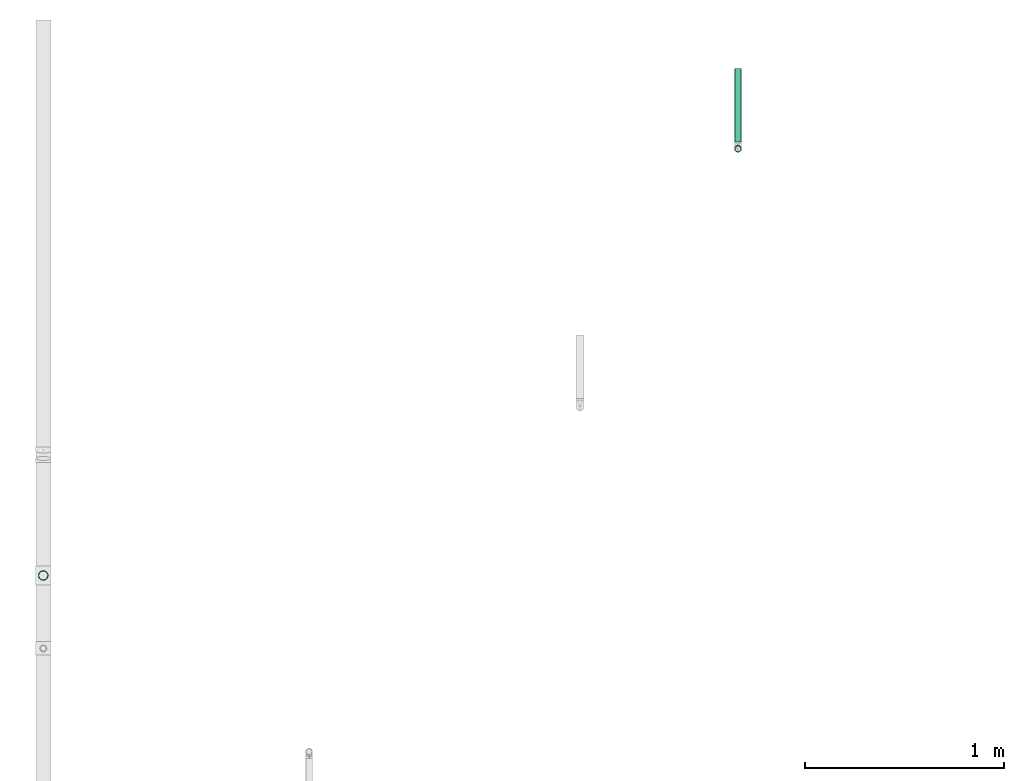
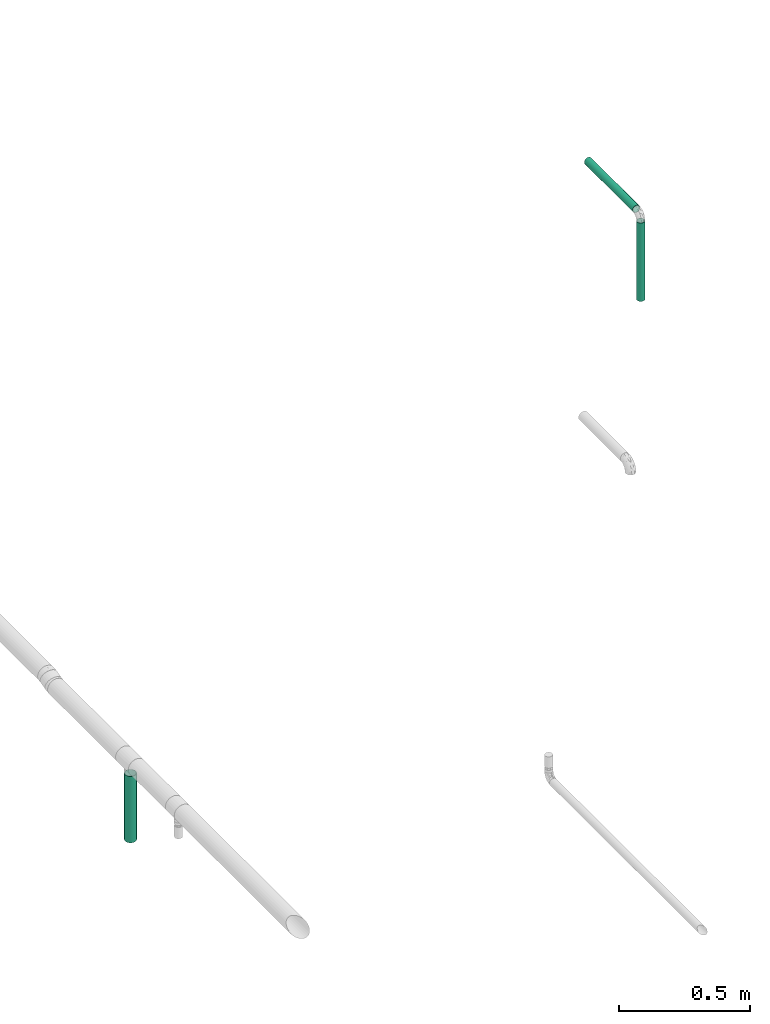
# One storey, part 28 of 32: 3 flow segments.
"""IFC2X3 building model written with IfcOpenShell, lengths in millimetres."""

from ifc_helpers import new_model, entity, si_unit, converted_unit, derived_unit, direction, frame, place, context, subcontext, project, spatial, faceted_brep, type_object, element, save


model = new_model("IFC2X3")

# Units and contexts
model_context = context("Model", 3, precision=0.01, world=frame((0.0, 4.29681676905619e-09, 0.0)), true_north=direction((4.01073788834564e-13, 1.0)))
plan_context = context("Plan", 3, precision=0.01, world=frame((0.0, 4.29681676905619e-09, 0.0)), true_north=direction((4.01073788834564e-13, 1.0)))
body_context = subcontext(model_context, "Body", "Model", "MODEL_VIEW")
ifc_project = project(units=[converted_unit("PLANEANGLEUNIT", "DEGREE", entity("IfcPositiveLengthMeasure", 0.0174532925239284), si_unit("PLANEANGLEUNIT", "RADIAN"), dimensions=[0, 0, 0, 0, 0, 0, 0]), si_unit("AREAUNIT", "SQUARE_METRE"), si_unit("LENGTHUNIT", "METRE", prefix="MILLI"), si_unit("MASSUNIT", "GRAM", prefix="KILO"), si_unit("POWERUNIT", "WATT"), si_unit("PRESSUREUNIT", "PASCAL", prefix="KILO"), si_unit("FORCEUNIT", "NEWTON", prefix="KILO"), si_unit("ELECTRICVOLTAGEUNIT", "VOLT"), si_unit("ELECTRICCURRENTUNIT", "AMPERE"), si_unit("THERMODYNAMICTEMPERATUREUNIT", "DEGREE_CELSIUS"), si_unit("TIMEUNIT", "SECOND"), si_unit("VOLUMEUNIT", "CUBIC_METRE"), derived_unit("LINEARVELOCITYUNIT", [(si_unit("LENGTHUNIT", "METRE"), 1), (si_unit("TIMEUNIT", "SECOND"), -1)]), derived_unit("VOLUMETRICFLOWRATEUNIT", [(si_unit("VOLUMEUNIT", "CUBIC_METRE"), 1), (si_unit("TIMEUNIT", "SECOND"), -1)]), derived_unit("THERMALTRANSMITTANCEUNIT", [(si_unit("POWERUNIT", "WATT"), 1), (si_unit("THERMODYNAMICTEMPERATUREUNIT", "KELVIN"), -1), (si_unit("AREAUNIT", "SQUARE_METRE"), -1)]), derived_unit("SOUNDPRESSUREUNIT", [(si_unit("PRESSUREUNIT", "PASCAL"), 1)])], contexts=[model_context, plan_context])

# Site, building, storey
site_placement = place(None, frame((0.0, -4.29681676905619e-09, 0.0), z_axis=(0.0, 0.0, 1.0), x_axis=(1.0, 0.0, 0.0)))
site = spatial("IfcSite", under=ifc_project, at=site_placement, CompositionType="ELEMENT")
building_placement = place(site_placement, frame((0.0, 4.29681676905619e-09, 0.0), z_axis=(0.0, 0.0, 1.0), x_axis=(1.0, 0.0, 0.0)))
building = spatial("IfcBuilding", under=site, at=building_placement, Name="mc-building", CompositionType="ELEMENT")
storey_placement = place(building_placement, frame((0.0, 0.0, 205200.0), z_axis=(0.0, 0.0, 1.0), x_axis=(1.0, 0.0, 0.0)))
storey = spatial("IfcBuildingStorey", under=building, at=storey_placement, Name="Nivå D + 1,2 m", CompositionType="ELEMENT", Elevation=205200.0)

# Flow segments
pipe_segment_type = type_object("IfcPipeSegmentType", Name="Stålrør normaltykke", PredefinedType="RIGIDSEGMENT")
flow_segment_1_placement = place(storey_placement, frame((326993.46135, 467096.53781, 4366.20000000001), z_axis=(0.0, 1.0, 0.0), x_axis=(0.0, 0.0, -1.0)))
element("IfcFlowSegment", 1, at=flow_segment_1_placement, inside=storey, type_object=pipe_segment_type, Name="Stålrør normaltykke", context=body_context, shape_type="Brep", body=[
    faceted_brep([(366.200000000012, 14.9, 0.0), (366.200000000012, 14.6736355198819, -2.58735784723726), (0.0, 14.6736355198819, -2.58735784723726), (0.0, 14.9, 0.0), (366.200000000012, 14.00142004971, -5.09610013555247), (0.0, 14.00142004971, -5.09610013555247), (366.200000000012, 12.9037785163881, -7.45000000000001), (0.0, 12.9037785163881, -7.45000000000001), (366.200000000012, 11.4140622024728, -9.57753538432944), (0.0, 11.4140622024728, -9.57753538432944), (366.200000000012, 9.57753538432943, -11.4140622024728), (0.0, 9.57753538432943, -11.4140622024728), (366.200000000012, 7.45, -12.9037785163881), (0.0, 7.45, -12.9037785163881), (366.200000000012, 5.09610013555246, -14.00142004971), (0.0, 5.09610013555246, -14.00142004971), (366.200000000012, 2.58735784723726, -14.6736355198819), (0.0, 2.58735784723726, -14.6736355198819), (366.200000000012, -2.73708559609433e-15, -14.9), (0.0, -2.73708559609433e-15, -14.9), (366.200000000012, -2.58735784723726, -14.6736355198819), (0.0, -2.58735784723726, -14.6736355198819), (366.200000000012, -5.09610013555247, -14.00142004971), (0.0, -5.09610013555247, -14.00142004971), (366.200000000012, -7.45000000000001, -12.9037785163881), (0.0, -7.45000000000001, -12.9037785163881), (366.200000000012, -9.57753538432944, -11.4140622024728), (0.0, -9.57753538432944, -11.4140622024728), (366.200000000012, -11.4140622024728, -9.57753538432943), (0.0, -11.4140622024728, -9.57753538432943), (366.200000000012, -12.9037785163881, -7.44999999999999), (0.0, -12.9037785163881, -7.44999999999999), (366.200000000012, -14.00142004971, -5.09610013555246), (0.0, -14.00142004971, -5.09610013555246), (366.200000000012, -14.6736355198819, -2.58735784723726), (0.0, -14.6736355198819, -2.58735784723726), (366.200000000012, -14.9, 1.82472373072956e-15), (0.0, -14.9, 1.82472373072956e-15), (366.200000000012, -14.6736355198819, 2.58735784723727), (0.0, -14.6736355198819, 2.58735784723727), (366.200000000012, -14.00142004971, 5.09610013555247), (0.0, -14.00142004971, 5.09610013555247), (366.200000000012, -12.9037785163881, 7.45), (0.0, -12.9037785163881, 7.45), (366.200000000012, -11.4140622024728, 9.57753538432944), (0.0, -11.4140622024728, 9.57753538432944), (366.200000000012, -9.57753538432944, 11.4140622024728), (0.0, -9.57753538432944, 11.4140622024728), (366.200000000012, -7.45, 12.9037785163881), (0.0, -7.45, 12.9037785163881), (366.200000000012, -5.09610013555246, 14.00142004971), (0.0, -5.09610013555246, 14.00142004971), (366.200000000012, -2.58735784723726, 14.6736355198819), (0.0, -2.58735784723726, 14.6736355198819), (366.200000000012, 9.12361865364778e-16, 14.9), (0.0, 9.12361865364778e-16, 14.9), (366.200000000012, 2.58735784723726, 14.6736355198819), (0.0, 2.58735784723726, 14.6736355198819), (366.200000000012, 5.09610013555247, 14.00142004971), (0.0, 5.09610013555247, 14.00142004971), (366.200000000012, 7.45, 12.9037785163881), (0.0, 7.45, 12.9037785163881), (366.200000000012, 9.57753538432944, 11.4140622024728), (0.0, 9.57753538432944, 11.4140622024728), (366.200000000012, 11.4140622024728, 9.57753538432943), (0.0, 11.4140622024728, 9.57753538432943), (366.200000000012, 12.9037785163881, 7.45), (0.0, 12.9037785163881, 7.45), (366.200000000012, 14.00142004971, 5.09610013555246), (0.0, 14.00142004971, 5.09610013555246), (366.200000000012, 14.6736355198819, 2.58735784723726), (0.0, 14.6736355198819, 2.58735784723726), (366.200000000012, 16.6432510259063, -2.93465420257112), (366.200000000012, 16.9, 0.0), (0.0, 16.9, 0.0), (0.0, 16.6432510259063, -2.93465420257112), (366.200000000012, 16.6432510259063, 2.93465420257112), (0.0, 16.6432510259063, 2.93465420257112), (366.200000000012, 15.8808052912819, 5.7801404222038), (0.0, 15.8808052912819, 5.7801404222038), (366.200000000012, 14.635829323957, 8.45), (0.0, 14.635829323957, 8.45), (366.200000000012, 12.9461510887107, 10.8631106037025), (0.0, 12.9461510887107, 10.8631106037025), (366.200000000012, 10.8631106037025, 12.9461510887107), (0.0, 10.8631106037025, 12.9461510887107), (366.200000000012, 8.45, 14.635829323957), (0.0, 8.45, 14.635829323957), (366.200000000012, 5.7801404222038, 15.8808052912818), (0.0, 5.7801404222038, 15.8808052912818), (366.200000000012, 2.93465420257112, 16.6432510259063), (0.0, 2.93465420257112, 16.6432510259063), (366.200000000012, 1.03482654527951e-15, 16.9), (0.0, 1.03482654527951e-15, 16.9), (366.200000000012, -2.93465420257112, 16.6432510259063), (0.0, -2.93465420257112, 16.6432510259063), (366.200000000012, -5.7801404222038, 15.8808052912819), (0.0, -5.7801404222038, 15.8808052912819), (366.200000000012, -8.45, 14.635829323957), (0.0, -8.45, 14.635829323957), (366.200000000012, -10.8631106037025, 12.9461510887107), (0.0, -10.8631106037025, 12.9461510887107), (366.200000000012, -12.9461510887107, 10.8631106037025), (0.0, -12.9461510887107, 10.8631106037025), (366.200000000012, -14.635829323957, 8.45), (0.0, -14.635829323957, 8.45), (366.200000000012, -15.8808052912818, 5.7801404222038), (0.0, -15.8808052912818, 5.7801404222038), (366.200000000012, -16.6432510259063, 2.93465420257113), (0.0, -16.6432510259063, 2.93465420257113), (366.200000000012, -16.9, 2.06965309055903e-15), (0.0, -16.9, 2.06965309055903e-15), (366.200000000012, -16.6432510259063, -2.93465420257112), (0.0, -16.6432510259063, -2.93465420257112), (366.200000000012, -15.8808052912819, -5.7801404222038), (0.0, -15.8808052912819, -5.7801404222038), (366.200000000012, -14.635829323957, -8.44999999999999), (0.0, -14.635829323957, -8.44999999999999), (366.200000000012, -12.9461510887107, -10.8631106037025), (0.0, -12.9461510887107, -10.8631106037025), (366.200000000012, -10.8631106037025, -12.9461510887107), (0.0, -10.8631106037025, -12.9461510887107), (366.200000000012, -8.45000000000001, -14.635829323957), (0.0, -8.45000000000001, -14.635829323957), (366.200000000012, -5.78014042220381, -15.8808052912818), (0.0, -5.78014042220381, -15.8808052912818), (366.200000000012, -2.93465420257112, -16.6432510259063), (0.0, -2.93465420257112, -16.6432510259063), (366.200000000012, -3.10447963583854e-15, -16.9), (0.0, -3.10447963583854e-15, -16.9), (366.200000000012, 2.93465420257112, -16.6432510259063), (0.0, 2.93465420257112, -16.6432510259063), (366.200000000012, 5.78014042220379, -15.8808052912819), (0.0, 5.78014042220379, -15.8808052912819), (366.200000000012, 8.45, -14.635829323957), (0.0, 8.45, -14.635829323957), (366.200000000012, 10.8631106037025, -12.9461510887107), (0.0, 10.8631106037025, -12.9461510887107), (366.200000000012, 12.9461510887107, -10.8631106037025), (0.0, 12.9461510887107, -10.8631106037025), (366.200000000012, 14.635829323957, -8.45000000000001), (0.0, 14.635829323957, -8.45000000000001), (366.200000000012, 15.8808052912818, -5.78014042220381), (0.0, 15.8808052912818, -5.78014042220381)], [[[0, 1, 2, 3]], [[1, 4, 5, 2]], [[4, 6, 7, 5]], [[6, 8, 9, 7]], [[8, 10, 11, 9]], [[10, 12, 13, 11]], [[12, 14, 15, 13]], [[14, 16, 17, 15]], [[16, 18, 19, 17]], [[18, 20, 21, 19]], [[20, 22, 23, 21]], [[22, 24, 25, 23]], [[24, 26, 27, 25]], [[26, 28, 29, 27]], [[28, 30, 31, 29]], [[30, 32, 33, 31]], [[32, 34, 35, 33]], [[34, 36, 37, 35]], [[36, 38, 39, 37]], [[38, 40, 41, 39]], [[40, 42, 43, 41]], [[42, 44, 45, 43]], [[44, 46, 47, 45]], [[46, 48, 49, 47]], [[48, 50, 51, 49]], [[50, 52, 53, 51]], [[52, 54, 55, 53]], [[54, 56, 57, 55]], [[56, 58, 59, 57]], [[58, 60, 61, 59]], [[60, 62, 63, 61]], [[62, 64, 65, 63]], [[64, 66, 67, 65]], [[66, 68, 69, 67]], [[68, 70, 71, 69]], [[70, 0, 3, 71]], [[72, 73, 74, 75]], [[73, 76, 77, 74]], [[76, 78, 79, 77]], [[78, 80, 81, 79]], [[80, 82, 83, 81]], [[82, 84, 85, 83]], [[84, 86, 87, 85]], [[86, 88, 89, 87]], [[88, 90, 91, 89]], [[90, 92, 93, 91]], [[92, 94, 95, 93]], [[94, 96, 97, 95]], [[96, 98, 99, 97]], [[98, 100, 101, 99]], [[100, 102, 103, 101]], [[102, 104, 105, 103]], [[104, 106, 107, 105]], [[106, 108, 109, 107]], [[108, 110, 111, 109]], [[110, 112, 113, 111]], [[112, 114, 115, 113]], [[114, 116, 117, 115]], [[116, 118, 119, 117]], [[118, 120, 121, 119]], [[120, 122, 123, 121]], [[122, 124, 125, 123]], [[124, 126, 127, 125]], [[126, 128, 129, 127]], [[128, 130, 131, 129]], [[130, 132, 133, 131]], [[132, 134, 135, 133]], [[134, 136, 137, 135]], [[136, 138, 139, 137]], [[138, 140, 141, 139]], [[140, 142, 143, 141]], [[142, 72, 75, 143]], [[75, 74, 77, 79, 81, 83, 85, 87, 89, 91, 93, 95, 97, 99, 101, 103, 105, 107, 109, 111, 113, 115, 117, 119, 121, 123, 125, 127, 129, 131, 133, 135, 137, 139, 141, 143], [3, 2, 5, 7, 9, 11, 13, 15, 17, 19, 21, 23, 25, 27, 29, 31, 33, 35, 37, 39, 41, 43, 45, 47, 49, 51, 53, 55, 57, 59, 61, 63, 65, 67, 69, 71]], [[142, 140, 138, 136, 134, 132, 130, 128, 126, 124, 122, 120, 118, 116, 114, 112, 110, 108, 106, 104, 102, 100, 98, 96, 94, 92, 90, 88, 86, 84, 82, 80, 78, 76, 73, 72], [70, 68, 66, 64, 62, 60, 58, 56, 54, 52, 50, 48, 46, 44, 42, 40, 38, 36, 34, 32, 30, 28, 26, 24, 22, 20, 18, 16, 14, 12, 10, 8, 6, 4, 1, 0]]], orient=[[False], [False], [False], [False], [False], [False], [False], [False], [False], [False], [False], [False], [False], [False], [False], [False], [False], [False], [False], [False], [False], [False], [False], [False], [False], [False], [False], [False], [False], [False], [False], [False], [False], [False], [False], [False], [False], [False], [False], [False], [False], [False], [False], [False], [False], [False], [False], [False], [False], [False], [False], [False], [False], [False], [False], [False], [False], [False], [False], [False], [False], [False], [False], [False], [False], [False], [False], [False], [False], [False], [False], [False], [False, False], [False, False]]),
])
flow_segment_2_placement = place(storey_placement, frame((323497.5, 464949.29062, 3281.73092999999), z_axis=(1.0, 0.0, 0.0), x_axis=(0.0, 0.0, 1.0)))
element("IfcFlowSegment", 2, at=flow_segment_2_placement, inside=storey, type_object=pipe_segment_type, Name="Stålrør normaltykke", context=body_context, shape_type="Brep", body=[
    faceted_brep([(718.269070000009, 21.7642513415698, -3.83762472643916), (718.269070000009, 22.1, 0.0), (1028.6, 22.1, 0.0), (1028.6, 21.7642513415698, -3.83762472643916), (718.269070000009, 20.7672069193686, -7.55864516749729), (1028.6, 20.7672069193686, -7.5586451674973), (718.269070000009, 19.1391614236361, -11.05), (1028.6, 19.1391614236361, -11.05), (718.269070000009, 16.9295821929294, -14.2056061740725), (1028.6, 16.9295821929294, -14.2056061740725), (718.269070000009, 14.2056061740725, -16.9295821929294), (1028.6, 14.2056061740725, -16.9295821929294), (718.269070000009, 11.05, -19.1391614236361), (1028.6, 11.05, -19.1391614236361), (718.269070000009, 7.55864516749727, -20.7672069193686), (1028.6, 7.55864516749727, -20.7672069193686), (718.269070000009, 3.83762472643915, -21.7642513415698), (1028.6, 3.83762472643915, -21.7642513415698), (718.269070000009, -4.05970413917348e-15, -22.1), (1028.6, -4.05970413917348e-15, -22.1), (718.269070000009, -3.83762472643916, -21.7642513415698), (1028.6, -3.83762472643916, -21.7642513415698), (718.269070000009, -7.55864516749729, -20.7672069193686), (1028.6, -7.55864516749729, -20.7672069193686), (718.269070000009, -11.05, -19.1391614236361), (1028.6, -11.05, -19.1391614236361), (718.269070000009, -14.2056061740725, -16.9295821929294), (1028.6, -14.2056061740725, -16.9295821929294), (718.269070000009, -16.9295821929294, -14.2056061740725), (1028.6, -16.9295821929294, -14.2056061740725), (718.269070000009, -19.1391614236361, -11.05), (1028.6, -19.1391614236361, -11.05), (718.269070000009, -20.7672069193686, -7.55864516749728), (1028.6, -20.7672069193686, -7.55864516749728), (718.269070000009, -21.7642513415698, -3.83762472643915), (1028.6, -21.7642513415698, -3.83762472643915), (718.269070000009, -22.1, 2.70646942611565e-15), (1028.6, -22.1, 2.70646942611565e-15), (718.269070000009, -21.7642513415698, 3.83762472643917), (1028.6, -21.7642513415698, 3.83762472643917), (718.269070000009, -20.7672069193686, 7.55864516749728), (1028.6, -20.7672069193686, 7.55864516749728), (718.269070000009, -19.1391614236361, 11.05), (1028.6, -19.1391614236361, 11.05), (718.269070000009, -16.9295821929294, 14.2056061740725), (1028.6, -16.9295821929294, 14.2056061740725), (718.269070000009, -14.2056061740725, 16.9295821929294), (1028.6, -14.2056061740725, 16.9295821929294), (718.269070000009, -11.05, 19.1391614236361), (1028.6, -11.05, 19.1391614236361), (718.269070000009, -7.55864516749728, 20.7672069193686), (1028.6, -7.55864516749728, 20.7672069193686), (718.269070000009, -3.83762472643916, 21.7642513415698), (1028.6, -3.83762472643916, 21.7642513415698), (718.269070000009, 1.35323471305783e-15, 22.1), (1028.6, 1.35323471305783e-15, 22.1), (718.269070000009, 3.83762472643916, 21.7642513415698), (1028.6, 3.83762472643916, 21.7642513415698), (718.269070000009, 7.55864516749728, 20.7672069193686), (1028.6, 7.55864516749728, 20.7672069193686), (718.269070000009, 11.05, 19.1391614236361), (1028.6, 11.05, 19.1391614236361), (718.269070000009, 14.2056061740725, 16.9295821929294), (1028.6, 14.2056061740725, 16.9295821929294), (718.269070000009, 16.9295821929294, 14.2056061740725), (1028.6, 16.9295821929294, 14.2056061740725), (718.269070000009, 19.1391614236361, 11.05), (1028.6, 19.1391614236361, 11.05), (718.269070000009, 20.7672069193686, 7.55864516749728), (1028.6, 20.7672069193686, 7.55864516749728), (718.269070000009, 21.7642513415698, 3.83762472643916), (1028.6, 21.7642513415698, 3.83762472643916), (718.269070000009, 24.1, 0.0), (718.269070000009, 23.7338668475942, -4.18492108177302), (1028.6, 23.7338668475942, -4.18492108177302), (1028.6, 24.1, 0.0), (718.269070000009, 23.7338668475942, 4.18492108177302), (1028.6, 23.7338668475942, 4.18492108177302), (718.269070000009, 22.6465921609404, 8.24268545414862), (1028.6, 22.6465921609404, 8.24268545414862), (718.269070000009, 20.871212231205, 12.05), (1028.6, 20.871212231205, 12.05), (718.269070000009, 18.4616710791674, 15.4911813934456), (1028.6, 18.4616710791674, 15.4911813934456), (718.269070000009, 15.4911813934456, 18.4616710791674), (1028.6, 15.4911813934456, 18.4616710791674), (718.269070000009, 12.05, 20.871212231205), (1028.6, 12.05, 20.871212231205), (718.269070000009, 8.24268545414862, 22.6465921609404), (1028.6, 8.24268545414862, 22.6465921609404), (718.269070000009, 4.18492108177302, 23.7338668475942), (1028.6, 4.18492108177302, 23.7338668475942), (718.269070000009, 1.47569939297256e-15, 24.1), (1028.6, 1.47569939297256e-15, 24.1), (718.269070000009, -4.18492108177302, 23.7338668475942), (1028.6, -4.18492108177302, 23.7338668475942), (718.269070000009, -8.24268545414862, 22.6465921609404), (1028.6, -8.24268545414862, 22.6465921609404), (718.269070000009, -12.05, 20.871212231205), (1028.6, -12.05, 20.871212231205), (718.269070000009, -15.4911813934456, 18.4616710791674), (1028.6, -15.4911813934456, 18.4616710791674), (718.269070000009, -18.4616710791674, 15.4911813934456), (1028.6, -18.4616710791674, 15.4911813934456), (718.269070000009, -20.871212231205, 12.05), (1028.6, -20.871212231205, 12.05), (718.269070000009, -22.6465921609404, 8.24268545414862), (1028.6, -22.6465921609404, 8.24268545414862), (718.269070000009, -23.7338668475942, 4.18492108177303), (1028.6, -23.7338668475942, 4.18492108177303), (718.269070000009, -24.1, 2.95139878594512e-15), (1028.6, -24.1, 2.95139878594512e-15), (718.269070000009, -23.7338668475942, -4.18492108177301), (1028.6, -23.7338668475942, -4.18492108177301), (718.269070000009, -22.6465921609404, -8.24268545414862), (1028.6, -22.6465921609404, -8.24268545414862), (718.269070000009, -20.871212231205, -12.05), (1028.6, -20.871212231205, -12.05), (718.269070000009, -18.4616710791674, -15.4911813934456), (1028.6, -18.4616710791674, -15.4911813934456), (718.269070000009, -15.4911813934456, -18.4616710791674), (1028.6, -15.4911813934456, -18.4616710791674), (718.269070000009, -12.05, -20.871212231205), (1028.6, -12.05, -20.871212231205), (718.269070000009, -8.24268545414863, -22.6465921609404), (1028.6, -8.24268545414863, -22.6465921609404), (718.269070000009, -4.18492108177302, -23.7338668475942), (1028.6, -4.18492108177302, -23.7338668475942), (718.269070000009, -4.42709817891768e-15, -24.1), (1028.6, -4.42709817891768e-15, -24.1), (718.269070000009, 4.18492108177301, -23.7338668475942), (1028.6, 4.18492108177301, -23.7338668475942), (718.269070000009, 8.2426854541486, -22.6465921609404), (1028.6, 8.2426854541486, -22.6465921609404), (718.269070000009, 12.05, -20.871212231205), (1028.6, 12.05, -20.871212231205), (718.269070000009, 15.4911813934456, -18.4616710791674), (1028.6, 15.4911813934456, -18.4616710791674), (718.269070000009, 18.4616710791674, -15.4911813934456), (1028.6, 18.4616710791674, -15.4911813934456), (718.269070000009, 20.871212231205, -12.05), (1028.6, 20.871212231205, -12.05), (718.269070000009, 22.6465921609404, -8.24268545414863), (1028.6, 22.6465921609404, -8.24268545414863)], [[[0, 1, 2, 3]], [[4, 0, 3, 5]], [[6, 4, 5, 7]], [[8, 6, 7, 9]], [[10, 8, 9, 11]], [[12, 10, 11, 13]], [[14, 12, 13, 15]], [[16, 14, 15, 17]], [[18, 16, 17, 19]], [[20, 18, 19, 21]], [[22, 20, 21, 23]], [[24, 22, 23, 25]], [[26, 24, 25, 27]], [[28, 26, 27, 29]], [[30, 28, 29, 31]], [[32, 30, 31, 33]], [[34, 32, 33, 35]], [[36, 34, 35, 37]], [[38, 36, 37, 39]], [[40, 38, 39, 41]], [[42, 40, 41, 43]], [[44, 42, 43, 45]], [[46, 44, 45, 47]], [[48, 46, 47, 49]], [[50, 48, 49, 51]], [[52, 50, 51, 53]], [[54, 52, 53, 55]], [[56, 54, 55, 57]], [[58, 56, 57, 59]], [[60, 58, 59, 61]], [[62, 60, 61, 63]], [[64, 62, 63, 65]], [[66, 64, 65, 67]], [[68, 66, 67, 69]], [[70, 68, 69, 71]], [[1, 70, 71, 2]], [[72, 73, 74, 75]], [[76, 72, 75, 77]], [[78, 76, 77, 79]], [[80, 78, 79, 81]], [[82, 80, 81, 83]], [[84, 82, 83, 85]], [[86, 84, 85, 87]], [[88, 86, 87, 89]], [[90, 88, 89, 91]], [[92, 90, 91, 93]], [[94, 92, 93, 95]], [[96, 94, 95, 97]], [[98, 96, 97, 99]], [[100, 98, 99, 101]], [[102, 100, 101, 103]], [[104, 102, 103, 105]], [[106, 104, 105, 107]], [[108, 106, 107, 109]], [[110, 108, 109, 111]], [[112, 110, 111, 113]], [[114, 112, 113, 115]], [[116, 114, 115, 117]], [[118, 116, 117, 119]], [[120, 118, 119, 121]], [[122, 120, 121, 123]], [[124, 122, 123, 125]], [[126, 124, 125, 127]], [[128, 126, 127, 129]], [[130, 128, 129, 131]], [[132, 130, 131, 133]], [[134, 132, 133, 135]], [[136, 134, 135, 137]], [[138, 136, 137, 139]], [[140, 138, 139, 141]], [[142, 140, 141, 143]], [[73, 142, 143, 74]], [[75, 74, 143, 141, 139, 137, 135, 133, 131, 129, 127, 125, 123, 121, 119, 117, 115, 113, 111, 109, 107, 105, 103, 101, 99, 97, 95, 93, 91, 89, 87, 85, 83, 81, 79, 77], [2, 71, 69, 67, 65, 63, 61, 59, 57, 55, 53, 51, 49, 47, 45, 43, 41, 39, 37, 35, 33, 31, 29, 27, 25, 23, 21, 19, 17, 15, 13, 11, 9, 7, 5, 3]], [[76, 78, 80, 82, 84, 86, 88, 90, 92, 94, 96, 98, 100, 102, 104, 106, 108, 110, 112, 114, 116, 118, 120, 122, 124, 126, 128, 130, 132, 134, 136, 138, 140, 142, 73, 72], [4, 6, 8, 10, 12, 14, 16, 18, 20, 22, 24, 26, 28, 30, 32, 34, 36, 38, 40, 42, 44, 46, 48, 50, 52, 54, 56, 58, 60, 62, 64, 66, 68, 70, 1, 0]]], orient=[[False], [False], [False], [False], [False], [False], [False], [False], [False], [False], [False], [False], [False], [False], [False], [False], [False], [False], [False], [False], [False], [False], [False], [False], [False], [False], [False], [False], [False], [False], [False], [False], [False], [False], [False], [False], [False], [False], [False], [False], [False], [False], [False], [False], [False], [False], [False], [False], [False], [False], [False], [False], [False], [False], [False], [False], [False], [False], [False], [False], [False], [False], [False], [False], [False], [False], [False], [False], [False], [False], [False], [False], [False, False], [False, False]]),
])
flow_segment_3_placement = place(storey_placement, frame((326993.46135, 467130.33781, 4400.0), z_axis=(0.0, 0.0, 1.0), x_axis=(0.0, 1.0, 0.0)))
element("IfcFlowSegment", 3, at=flow_segment_3_placement, inside=storey, type_object=pipe_segment_type, Name="Stålrør normaltykke", context=body_context, shape_type="Brep", body=[
    faceted_brep([(369.662189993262, 14.9, 0.0), (369.662189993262, 14.6736355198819, -2.58735784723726), (0.0, 14.6736355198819, -2.58735784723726), (0.0, 14.9, 0.0), (369.662189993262, 14.00142004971, -5.09610013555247), (0.0, 14.00142004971, -5.09610013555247), (369.662189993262, 12.9037785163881, -7.45), (0.0, 12.9037785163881, -7.45000000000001), (369.662189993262, 11.4140622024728, -9.57753538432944), (0.0, 11.4140622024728, -9.57753538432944), (369.662189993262, 9.57753538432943, -11.4140622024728), (0.0, 9.57753538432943, -11.4140622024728), (369.662189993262, 7.45, -12.9037785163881), (0.0, 7.45, -12.9037785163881), (369.662189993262, 5.09610013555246, -14.00142004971), (0.0, 5.09610013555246, -14.00142004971), (369.662189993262, 2.58735784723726, -14.6736355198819), (0.0, 2.58735784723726, -14.6736355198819), (369.662189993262, -2.73708559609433e-15, -14.9), (0.0, -2.73708559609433e-15, -14.9), (369.662189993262, -2.58735784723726, -14.6736355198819), (0.0, -2.58735784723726, -14.6736355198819), (369.662189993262, -5.09610013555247, -14.00142004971), (0.0, -5.09610013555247, -14.00142004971), (369.662189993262, -7.45, -12.9037785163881), (0.0, -7.45000000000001, -12.9037785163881), (369.662189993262, -9.57753538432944, -11.4140622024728), (0.0, -9.57753538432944, -11.4140622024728), (369.662189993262, -11.4140622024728, -9.57753538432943), (0.0, -11.4140622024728, -9.57753538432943), (369.662189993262, -12.9037785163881, -7.44999999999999), (0.0, -12.9037785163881, -7.44999999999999), (369.662189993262, -14.00142004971, -5.09610013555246), (0.0, -14.00142004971, -5.09610013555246), (369.662189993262, -14.6736355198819, -2.58735784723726), (0.0, -14.6736355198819, -2.58735784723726), (369.662189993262, -14.9, 1.82472373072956e-15), (0.0, -14.9, 1.82472373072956e-15), (369.662189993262, -14.6736355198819, 2.58735784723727), (0.0, -14.6736355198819, 2.58735784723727), (369.662189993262, -14.00142004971, 5.09610013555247), (0.0, -14.00142004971, 5.09610013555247), (369.662189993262, -12.9037785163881, 7.45), (0.0, -12.9037785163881, 7.45), (369.662189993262, -11.4140622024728, 9.57753538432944), (0.0, -11.4140622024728, 9.57753538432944), (369.662189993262, -9.57753538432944, 11.4140622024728), (0.0, -9.57753538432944, 11.4140622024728), (369.662189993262, -7.45, 12.9037785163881), (0.0, -7.45, 12.9037785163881), (369.662189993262, -5.09610013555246, 14.00142004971), (0.0, -5.09610013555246, 14.00142004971), (369.662189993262, -2.58735784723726, 14.6736355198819), (0.0, -2.58735784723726, 14.6736355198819), (369.662189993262, 9.12361865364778e-16, 14.9), (0.0, 9.12361865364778e-16, 14.9), (369.662189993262, 2.58735784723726, 14.6736355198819), (0.0, 2.58735784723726, 14.6736355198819), (369.662189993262, 5.09610013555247, 14.00142004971), (0.0, 5.09610013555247, 14.00142004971), (369.662189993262, 7.45, 12.9037785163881), (0.0, 7.45, 12.9037785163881), (369.662189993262, 9.57753538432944, 11.4140622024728), (0.0, 9.57753538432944, 11.4140622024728), (369.662189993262, 11.4140622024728, 9.57753538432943), (0.0, 11.4140622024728, 9.57753538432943), (369.662189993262, 12.9037785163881, 7.45), (0.0, 12.9037785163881, 7.45), (369.662189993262, 14.00142004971, 5.09610013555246), (0.0, 14.00142004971, 5.09610013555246), (369.662189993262, 14.6736355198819, 2.58735784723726), (0.0, 14.6736355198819, 2.58735784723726), (369.662189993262, 16.6432510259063, -2.93465420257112), (369.662189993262, 16.9, 0.0), (0.0, 16.9, 0.0), (0.0, 16.6432510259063, -2.93465420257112), (369.662189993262, 16.6432510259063, 2.93465420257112), (0.0, 16.6432510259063, 2.93465420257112), (369.662189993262, 15.8808052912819, 5.7801404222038), (0.0, 15.8808052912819, 5.7801404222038), (369.662189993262, 14.635829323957, 8.45), (0.0, 14.635829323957, 8.45), (369.662189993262, 12.9461510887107, 10.8631106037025), (0.0, 12.9461510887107, 10.8631106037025), (369.662189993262, 10.8631106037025, 12.9461510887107), (0.0, 10.8631106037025, 12.9461510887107), (369.662189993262, 8.45, 14.635829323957), (0.0, 8.45, 14.635829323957), (369.662189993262, 5.7801404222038, 15.8808052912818), (0.0, 5.7801404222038, 15.8808052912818), (369.662189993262, 2.93465420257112, 16.6432510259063), (0.0, 2.93465420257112, 16.6432510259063), (369.662189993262, 1.03482654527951e-15, 16.9), (0.0, 1.03482654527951e-15, 16.9), (369.662189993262, -2.93465420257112, 16.6432510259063), (0.0, -2.93465420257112, 16.6432510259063), (369.662189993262, -5.7801404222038, 15.8808052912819), (0.0, -5.7801404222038, 15.8808052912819), (369.662189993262, -8.45, 14.635829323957), (0.0, -8.45, 14.635829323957), (369.662189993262, -10.8631106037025, 12.9461510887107), (0.0, -10.8631106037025, 12.9461510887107), (369.662189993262, -12.9461510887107, 10.8631106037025), (0.0, -12.9461510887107, 10.8631106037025), (369.662189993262, -14.635829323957, 8.45), (0.0, -14.635829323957, 8.45), (369.662189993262, -15.8808052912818, 5.7801404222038), (0.0, -15.8808052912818, 5.7801404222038), (369.662189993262, -16.6432510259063, 2.93465420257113), (0.0, -16.6432510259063, 2.93465420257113), (369.662189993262, -16.9, 2.06965309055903e-15), (0.0, -16.9, 2.06965309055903e-15), (369.662189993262, -16.6432510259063, -2.93465420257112), (0.0, -16.6432510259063, -2.93465420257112), (369.662189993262, -15.8808052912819, -5.7801404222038), (0.0, -15.8808052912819, -5.7801404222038), (369.662189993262, -14.635829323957, -8.44999999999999), (0.0, -14.635829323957, -8.44999999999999), (369.662189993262, -12.9461510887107, -10.8631106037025), (0.0, -12.9461510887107, -10.8631106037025), (369.662189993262, -10.8631106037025, -12.9461510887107), (0.0, -10.8631106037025, -12.9461510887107), (369.662189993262, -8.45000000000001, -14.635829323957), (0.0, -8.45000000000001, -14.635829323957), (369.662189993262, -5.78014042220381, -15.8808052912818), (0.0, -5.78014042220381, -15.8808052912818), (369.662189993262, -2.93465420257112, -16.6432510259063), (0.0, -2.93465420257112, -16.6432510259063), (369.662189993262, -3.10447963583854e-15, -16.9), (0.0, -3.10447963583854e-15, -16.9), (369.662189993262, 2.93465420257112, -16.6432510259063), (0.0, 2.93465420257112, -16.6432510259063), (369.662189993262, 5.78014042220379, -15.8808052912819), (0.0, 5.78014042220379, -15.8808052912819), (369.662189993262, 8.45, -14.635829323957), (0.0, 8.45, -14.635829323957), (369.662189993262, 10.8631106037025, -12.9461510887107), (0.0, 10.8631106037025, -12.9461510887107), (369.662189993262, 12.9461510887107, -10.8631106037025), (0.0, 12.9461510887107, -10.8631106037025), (369.662189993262, 14.635829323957, -8.45000000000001), (0.0, 14.635829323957, -8.45000000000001), (369.662189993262, 15.8808052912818, -5.78014042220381), (0.0, 15.8808052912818, -5.78014042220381)], [[[0, 1, 2, 3]], [[1, 4, 5, 2]], [[4, 6, 7, 5]], [[6, 8, 9, 7]], [[8, 10, 11, 9]], [[10, 12, 13, 11]], [[12, 14, 15, 13]], [[14, 16, 17, 15]], [[16, 18, 19, 17]], [[18, 20, 21, 19]], [[20, 22, 23, 21]], [[22, 24, 25, 23]], [[24, 26, 27, 25]], [[26, 28, 29, 27]], [[28, 30, 31, 29]], [[30, 32, 33, 31]], [[32, 34, 35, 33]], [[34, 36, 37, 35]], [[36, 38, 39, 37]], [[38, 40, 41, 39]], [[40, 42, 43, 41]], [[42, 44, 45, 43]], [[44, 46, 47, 45]], [[46, 48, 49, 47]], [[48, 50, 51, 49]], [[50, 52, 53, 51]], [[52, 54, 55, 53]], [[54, 56, 57, 55]], [[56, 58, 59, 57]], [[58, 60, 61, 59]], [[60, 62, 63, 61]], [[62, 64, 65, 63]], [[64, 66, 67, 65]], [[66, 68, 69, 67]], [[68, 70, 71, 69]], [[70, 0, 3, 71]], [[72, 73, 74, 75]], [[73, 76, 77, 74]], [[76, 78, 79, 77]], [[78, 80, 81, 79]], [[80, 82, 83, 81]], [[82, 84, 85, 83]], [[84, 86, 87, 85]], [[86, 88, 89, 87]], [[88, 90, 91, 89]], [[90, 92, 93, 91]], [[92, 94, 95, 93]], [[94, 96, 97, 95]], [[96, 98, 99, 97]], [[98, 100, 101, 99]], [[100, 102, 103, 101]], [[102, 104, 105, 103]], [[104, 106, 107, 105]], [[106, 108, 109, 107]], [[108, 110, 111, 109]], [[110, 112, 113, 111]], [[112, 114, 115, 113]], [[114, 116, 117, 115]], [[116, 118, 119, 117]], [[118, 120, 121, 119]], [[120, 122, 123, 121]], [[122, 124, 125, 123]], [[124, 126, 127, 125]], [[126, 128, 129, 127]], [[128, 130, 131, 129]], [[130, 132, 133, 131]], [[132, 134, 135, 133]], [[134, 136, 137, 135]], [[136, 138, 139, 137]], [[138, 140, 141, 139]], [[140, 142, 143, 141]], [[142, 72, 75, 143]], [[75, 74, 77, 79, 81, 83, 85, 87, 89, 91, 93, 95, 97, 99, 101, 103, 105, 107, 109, 111, 113, 115, 117, 119, 121, 123, 125, 127, 129, 131, 133, 135, 137, 139, 141, 143], [3, 2, 5, 7, 9, 11, 13, 15, 17, 19, 21, 23, 25, 27, 29, 31, 33, 35, 37, 39, 41, 43, 45, 47, 49, 51, 53, 55, 57, 59, 61, 63, 65, 67, 69, 71]], [[142, 140, 138, 136, 134, 132, 130, 128, 126, 124, 122, 120, 118, 116, 114, 112, 110, 108, 106, 104, 102, 100, 98, 96, 94, 92, 90, 88, 86, 84, 82, 80, 78, 76, 73, 72], [70, 68, 66, 64, 62, 60, 58, 56, 54, 52, 50, 48, 46, 44, 42, 40, 38, 36, 34, 32, 30, 28, 26, 24, 22, 20, 18, 16, 14, 12, 10, 8, 6, 4, 1, 0]]], orient=[[False], [False], [False], [False], [False], [False], [False], [False], [False], [False], [False], [False], [False], [False], [False], [False], [False], [False], [False], [False], [False], [False], [False], [False], [False], [False], [False], [False], [False], [False], [False], [False], [False], [False], [False], [False], [False], [False], [False], [False], [False], [False], [False], [False], [False], [False], [False], [False], [False], [False], [False], [False], [False], [False], [False], [False], [False], [False], [False], [False], [False], [False], [False], [False], [False], [False], [False], [False], [False], [False], [False], [False], [False, False], [False, False]]),
])

save(model, "model.ifc")
